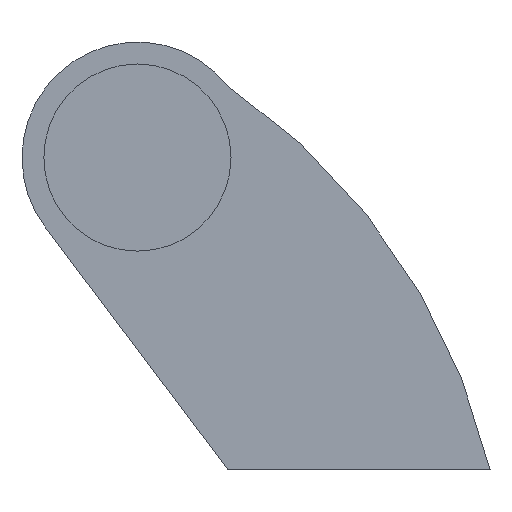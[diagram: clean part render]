
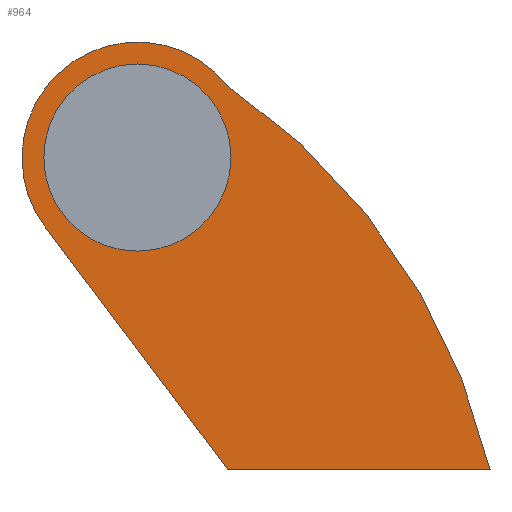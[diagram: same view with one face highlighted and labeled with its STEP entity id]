
A CAD part, left-side view. The second image highlights one B-rep face of the part: STEP entity #964.
In plain terms, the highlighted planar face has unit normal (-1, 0, 0).
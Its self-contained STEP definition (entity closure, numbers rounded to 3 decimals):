
#19 = CARTESIAN_POINT ( 'NONE',  ( -13.5, 37.5, 50. ) ) ;
#41 = DIRECTION ( 'NONE',  ( 0., 1., 0. ) ) ;
#84 = VERTEX_POINT ( 'NONE', #887 ) ;
#103 = VERTEX_POINT ( 'NONE', #1110 ) ;
#111 = FACE_BOUND ( 'NONE', #181, .T. ) ;
#117 = AXIS2_PLACEMENT_3D ( 'NONE', #259, #1084, #377 ) ;
#122 = PLANE ( 'NONE',  #653 ) ;
#131 = DIRECTION ( 'NONE',  ( 1., 0., 0. ) ) ;
#133 = LINE ( 'NONE', #558, #283 ) ;
#135 = EDGE_CURVE ( 'NONE', #1312, #103, #1214, .T. ) ;
#139 = CIRCLE ( 'NONE', #117, 15. ) ;
#181 = EDGE_LOOP ( 'NONE', ( #346, #842 ) ) ;
#201 = DIRECTION ( 'NONE',  ( 1., 0., 0. ) ) ;
#256 = AXIS2_PLACEMENT_3D ( 'NONE', #19, #364, #41 ) ;
#259 = CARTESIAN_POINT ( 'NONE',  ( -13.5, 37.5, 50. ) ) ;
#265 = DIRECTION ( 'NONE',  ( 0., 0.602, 0.799 ) ) ;
#283 = VECTOR ( 'NONE', #1304, 1000. ) ;
#346 = ORIENTED_EDGE ( 'NONE', *, *, #1127, .T. ) ;
#364 = DIRECTION ( 'NONE',  ( 1., 0., 0. ) ) ;
#368 = CIRCLE ( 'NONE', #256, 18.5 ) ;
#377 = DIRECTION ( 'NONE',  ( 0., 0., -1. ) ) ;
#397 = DIRECTION ( 'NONE',  ( 0., 1., 0. ) ) ;
#402 = EDGE_CURVE ( 'NONE', #84, #603, #416, .T. ) ;
#416 = CIRCLE ( 'NONE', #941, 15. ) ;
#431 = DIRECTION ( 'NONE',  ( 1., 0., 0. ) ) ;
#446 = FACE_OUTER_BOUND ( 'NONE', #535, .T. ) ;
#466 = VERTEX_POINT ( 'NONE', #1219 ) ;
#489 = CARTESIAN_POINT ( 'NONE',  ( -13.5, 81.08, -23.271 ) ) ;
#523 = CARTESIAN_POINT ( 'NONE',  ( -13.5, -19., 0. ) ) ;
#535 = EDGE_LOOP ( 'NONE', ( #881, #871, #731, #1371, #1105 ) ) ;
#543 = CIRCLE ( 'NONE', #1249, 18.5 ) ;
#558 = CARTESIAN_POINT ( 'NONE',  ( -13.5, -19., 0. ) ) ;
#603 = VERTEX_POINT ( 'NONE', #1161 ) ;
#653 = AXIS2_PLACEMENT_3D ( 'NONE', #1277, #431, #1079 ) ;
#661 = CARTESIAN_POINT ( 'NONE',  ( -13.5, 37.5, 50. ) ) ;
#668 = VERTEX_POINT ( 'NONE', #523 ) ;
#731 = ORIENTED_EDGE ( 'NONE', *, *, #961, .F. ) ;
#816 = EDGE_CURVE ( 'NONE', #466, #668, #942, .T. ) ;
#842 = ORIENTED_EDGE ( 'NONE', *, *, #402, .T. ) ;
#871 = ORIENTED_EDGE ( 'NONE', *, *, #1168, .F. ) ;
#881 = ORIENTED_EDGE ( 'NONE', *, *, #816, .F. ) ;
#887 = CARTESIAN_POINT ( 'NONE',  ( -13.5, 37.5, 65. ) ) ;
#906 = CARTESIAN_POINT ( 'NONE',  ( -13.5, 56., 50. ) ) ;
#941 = AXIS2_PLACEMENT_3D ( 'NONE', #661, #131, #1301 ) ;
#942 = CIRCLE ( 'NONE', #1121, 102.75 ) ;
#958 = DIRECTION ( 'NONE',  ( 1., 0., 0. ) ) ;
#961 = EDGE_CURVE ( 'NONE', #103, #1355, #543, .T. ) ;
#964 = ADVANCED_FACE ( 'NONE', ( #111, #446 ), #122, .F. ) ;
#1032 = CARTESIAN_POINT ( 'NONE',  ( -13.5, 37.5, 50. ) ) ;
#1079 = DIRECTION ( 'NONE',  ( 0., 1., 0. ) ) ;
#1084 = DIRECTION ( 'NONE',  ( 1., 0., 0. ) ) ;
#1105 = ORIENTED_EDGE ( 'NONE', *, *, #1251, .F. ) ;
#1110 = CARTESIAN_POINT ( 'NONE',  ( -13.5, 52.277, 38.87 ) ) ;
#1121 = AXIS2_PLACEMENT_3D ( 'NONE', #489, #201, #397 ) ;
#1127 = EDGE_CURVE ( 'NONE', #603, #84, #139, .T. ) ;
#1161 = CARTESIAN_POINT ( 'NONE',  ( -13.5, 37.5, 35. ) ) ;
#1168 = EDGE_CURVE ( 'NONE', #1355, #466, #368, .T. ) ;
#1170 = DIRECTION ( 'NONE',  ( 0., 1., 0. ) ) ;
#1200 = CARTESIAN_POINT ( 'NONE',  ( -13.5, 23., 0. ) ) ;
#1214 = LINE ( 'NONE', #1200, #1337 ) ;
#1219 = CARTESIAN_POINT ( 'NONE',  ( -13.5, 23., 61.489 ) ) ;
#1249 = AXIS2_PLACEMENT_3D ( 'NONE', #1032, #958, #1170 ) ;
#1251 = EDGE_CURVE ( 'NONE', #668, #1312, #133, .T. ) ;
#1277 = CARTESIAN_POINT ( 'NONE',  ( -13.5, 81.08, -23.271 ) ) ;
#1301 = DIRECTION ( 'NONE',  ( 0., 0., -1. ) ) ;
#1304 = DIRECTION ( 'NONE',  ( 0., 1., 0. ) ) ;
#1312 = VERTEX_POINT ( 'NONE', #1330 ) ;
#1330 = CARTESIAN_POINT ( 'NONE',  ( -13.5, 23., 0. ) ) ;
#1337 = VECTOR ( 'NONE', #265, 1000. ) ;
#1355 = VERTEX_POINT ( 'NONE', #906 ) ;
#1371 = ORIENTED_EDGE ( 'NONE', *, *, #135, .F. ) ;
